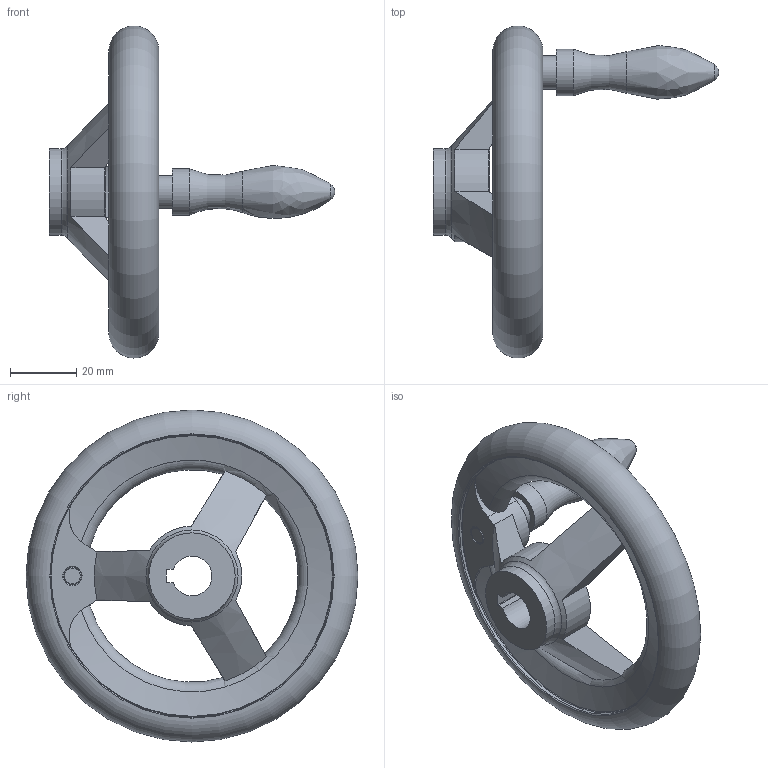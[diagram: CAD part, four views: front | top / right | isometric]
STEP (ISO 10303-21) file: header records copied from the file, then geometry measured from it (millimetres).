
FILE_DESCRIPTION( ( 'STEP AP203' ), '1' );
FILE_NAME( 'C:/Temp/Ganter_Step_05_03_2020/data/1_3/din_950/din_950_k/din_950_k_d/Handwheel DIN 950-GG-100-K12-D.stp', '2020-03-05T10:30:49', ( 'License CC BY-ND 4.0' ), ( 'CADENAS' ), ' ', 'PARTsolutions', ' ' );
FILE_SCHEMA( ( 'CONFIG_CONTROL_DESIGN' ) );
Length unit declared in the file: millimetre
Products named in the file (1): _Handwheel DIN 950-GG-100-K12-D
Bounding box: 86 x 100 x 100 mm (x, y, z)
Volume: 70690.2 mm3; surface area: 21674.2 mm2
Topology: 1 solids, 1 shells, 51 faces, 140 edges, 89 vertices
Faces by surface type: cylinder 17, plane 15, torus 11, cone 6, bspline 1, sphere 1
Full cylindrical faces by diameter (mm): 10 x1, 14 x1, 26 x2, 85 x2
Entity records: 1839 total; most frequent: CARTESIAN_POINT 631, DIRECTION 232, ORIENTED_EDGE 228, EDGE_CURVE 114, AXIS2_PLACEMENT_3D 104, VERTEX_POINT 85, EDGE_LOOP 77, FACE_OUTER_BOUND 66
